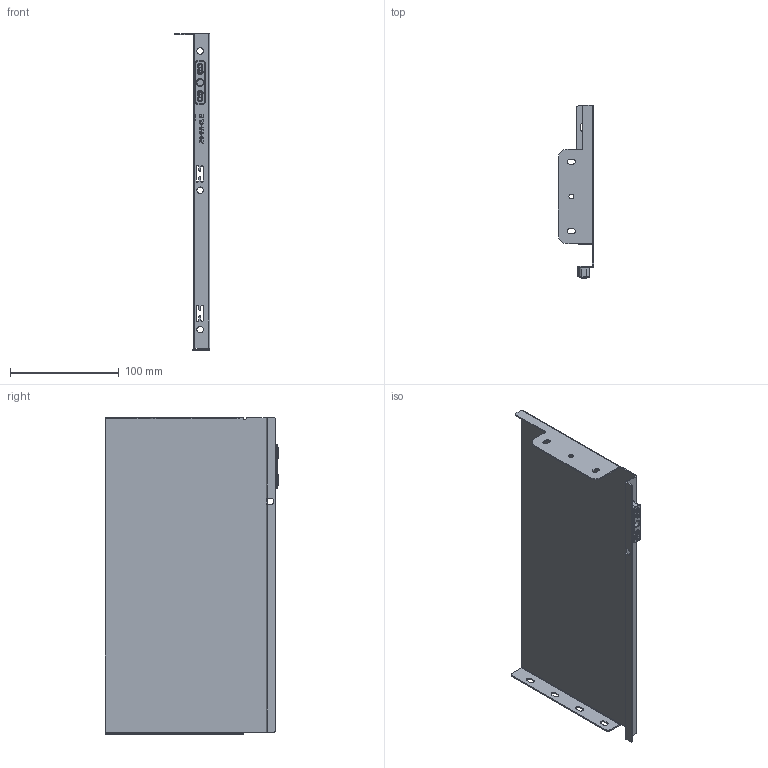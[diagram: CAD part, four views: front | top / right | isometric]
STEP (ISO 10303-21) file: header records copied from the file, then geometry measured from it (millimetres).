
FILE_DESCRIPTION (( 'STEP AP203' ), '1' );
FILE_NAME ('HL13300R.STEP', '2021-07-31T00:41:56', ( 'Users' ), ( 'Microsoft' ), 'SwSTEP 2.0', 'SolidWorks 2018', '' );
FILE_SCHEMA (( 'CONFIG_CONTROL_DESIGN' ));
Length unit declared in the file: millimetre
Products named in the file (1): HL13300R
Bounding box: 32.6 x 159.7 x 291.2 mm (x, y, z)
Volume: 67483.8 mm3; surface area: 110845.7 mm2
Topology: 1 solids, 1 shells, 385 faces, 1035 edges, 668 vertices
Faces by surface type: plane 147, cylinder 129, torus 55, bspline 52, cone 2
Entity records: 15051 total; most frequent: CARTESIAN_POINT 5335, ORIENTED_EDGE 2062, DIRECTION 1966, EDGE_CURVE 1031, AXIS2_PLACEMENT_3D 709, VERTEX_POINT 668, VECTOR 548, LINE 548
